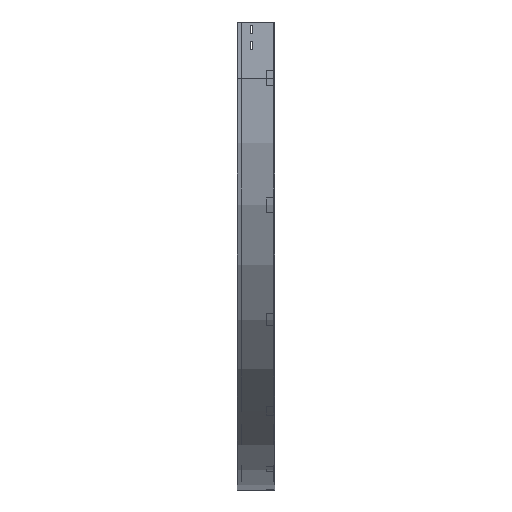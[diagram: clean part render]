
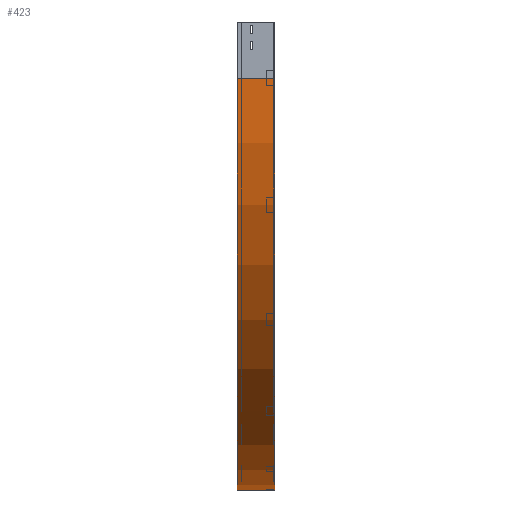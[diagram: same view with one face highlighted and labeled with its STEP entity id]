
A CAD part, left-side view. The second image highlights one B-rep face of the part: STEP entity #423.
In plain terms, the highlighted cylindrical face has radius 1100 mm (diameter 2200 mm), a partial arc.
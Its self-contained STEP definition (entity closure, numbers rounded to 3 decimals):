
#109 = EDGE_LOOP ( 'NONE', ( #1131, #1536, #1357, #2191 ) ) ;
#232 = DIRECTION ( 'NONE',  ( 0., -1., 0. ) ) ;
#423 = ADVANCED_FACE ( 'NONE', ( #2497 ), #3056, .T. ) ;
#560 = CARTESIAN_POINT ( 'NONE',  ( 1100., 100., -150. ) ) ;
#640 = CARTESIAN_POINT ( 'NONE',  ( 0., 0., -150. ) ) ;
#657 = DIRECTION ( 'NONE',  ( 0., 0., -1. ) ) ;
#867 = VECTOR ( 'NONE', #3447, 1000. ) ;
#912 = DIRECTION ( 'NONE',  ( 0., -1., 0. ) ) ;
#916 = CARTESIAN_POINT ( 'NONE',  ( 1100., 0., -150. ) ) ;
#989 = CARTESIAN_POINT ( 'NONE',  ( 1100., 0., -150. ) ) ;
#1038 = CARTESIAN_POINT ( 'NONE',  ( 1100., 100., -1250. ) ) ;
#1050 = CARTESIAN_POINT ( 'NONE',  ( 1100., 0., -1250. ) ) ;
#1131 = ORIENTED_EDGE ( 'NONE', *, *, #2187, .F. ) ;
#1262 = AXIS2_PLACEMENT_3D ( 'NONE', #560, #232, #2939 ) ;
#1357 = ORIENTED_EDGE ( 'NONE', *, *, #3603, .T. ) ;
#1536 = ORIENTED_EDGE ( 'NONE', *, *, #3383, .F. ) ;
#1678 = CARTESIAN_POINT ( 'NONE',  ( 1100., 0., -1250. ) ) ;
#2118 = VERTEX_POINT ( 'NONE', #2490 ) ;
#2187 = EDGE_CURVE ( 'NONE', #2118, #2777, #3519, .T. ) ;
#2191 = ORIENTED_EDGE ( 'NONE', *, *, #3847, .T. ) ;
#2207 = VERTEX_POINT ( 'NONE', #1038 ) ;
#2441 = DIRECTION ( 'NONE',  ( 0., -1., 0. ) ) ;
#2490 = CARTESIAN_POINT ( 'NONE',  ( 0., 0., -150. ) ) ;
#2497 = FACE_OUTER_BOUND ( 'NONE', #109, .T. ) ;
#2696 = CIRCLE ( 'NONE', #1262, 1100. ) ;
#2777 = VERTEX_POINT ( 'NONE', #1678 ) ;
#2915 = VERTEX_POINT ( 'NONE', #3621 ) ;
#2939 = DIRECTION ( 'NONE',  ( -1., 0., 0. ) ) ;
#2946 = VECTOR ( 'NONE', #912, 1000. ) ;
#3056 = CYLINDRICAL_SURFACE ( 'NONE', #3463, 1100. ) ;
#3140 = DIRECTION ( 'NONE',  ( -1., 0., 0. ) ) ;
#3333 = LINE ( 'NONE', #640, #2946 ) ;
#3352 = DIRECTION ( 'NONE',  ( 0., -1., 0. ) ) ;
#3383 = EDGE_CURVE ( 'NONE', #2915, #2118, #3333, .T. ) ;
#3447 = DIRECTION ( 'NONE',  ( 0., -1., 0. ) ) ;
#3463 = AXIS2_PLACEMENT_3D ( 'NONE', #989, #3352, #657 ) ;
#3519 = CIRCLE ( 'NONE', #3773, 1100. ) ;
#3603 = EDGE_CURVE ( 'NONE', #2915, #2207, #2696, .T. ) ;
#3621 = CARTESIAN_POINT ( 'NONE',  ( 0., 100., -150. ) ) ;
#3689 = LINE ( 'NONE', #1050, #867 ) ;
#3773 = AXIS2_PLACEMENT_3D ( 'NONE', #916, #2441, #3140 ) ;
#3847 = EDGE_CURVE ( 'NONE', #2207, #2777, #3689, .T. ) ;
